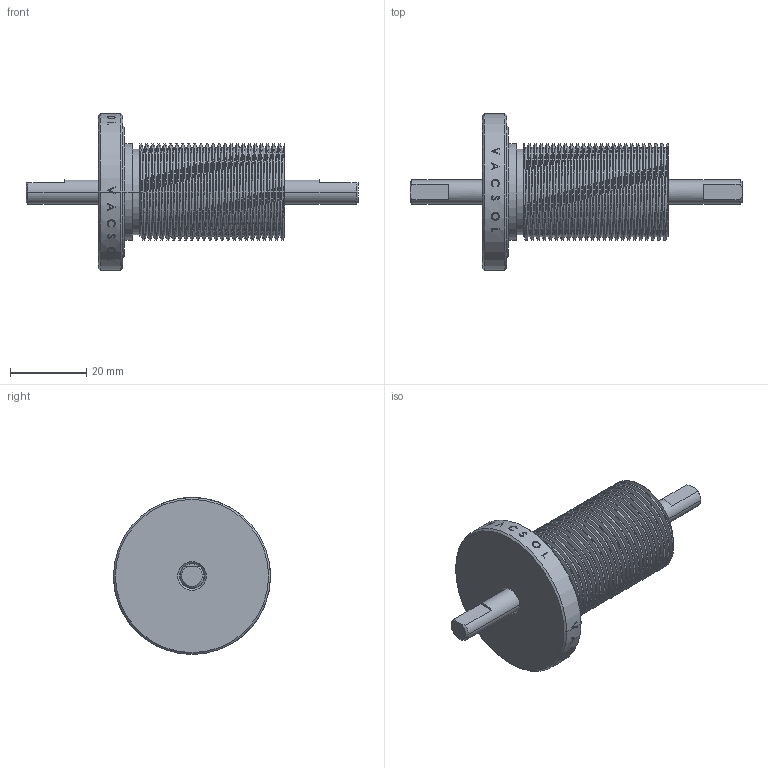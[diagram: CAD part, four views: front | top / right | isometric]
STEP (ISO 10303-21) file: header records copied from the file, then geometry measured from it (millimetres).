
FILE_DESCRIPTION (( 'STEP AP203' ), '1' );
FILE_NAME ('P62020.STEP', '2010-10-11T11:02:59', ( 'user' ), ( '' ), 'SwSTEP 2.0', 'SolidWorks 2007', '' );
FILE_SCHEMA (( 'CONFIG_CONTROL_DESIGN' ));
Length unit declared in the file: millimetre
Products named in the file (1): P62020
Bounding box: 87.3 x 41.27 x 41.27 mm (x, y, z)
Volume: 29513.7 mm3; surface area: 11420.8 mm2
Topology: 2 solids, 2 shells, 356 faces, 953 edges, 630 vertices
Faces by surface type: bspline 179, cylinder 141, plane 18, cone 14, torus 4
Entity records: 24390 total; most frequent: CARTESIAN_POINT 17553, ORIENTED_EDGE 1906, EDGE_CURVE 953, DIRECTION 637, VERTEX_POINT 630, B_SPLINE_CURVE_WITH_KNOTS 548, EDGE_LOOP 387, FACE_OUTER_BOUND 356
